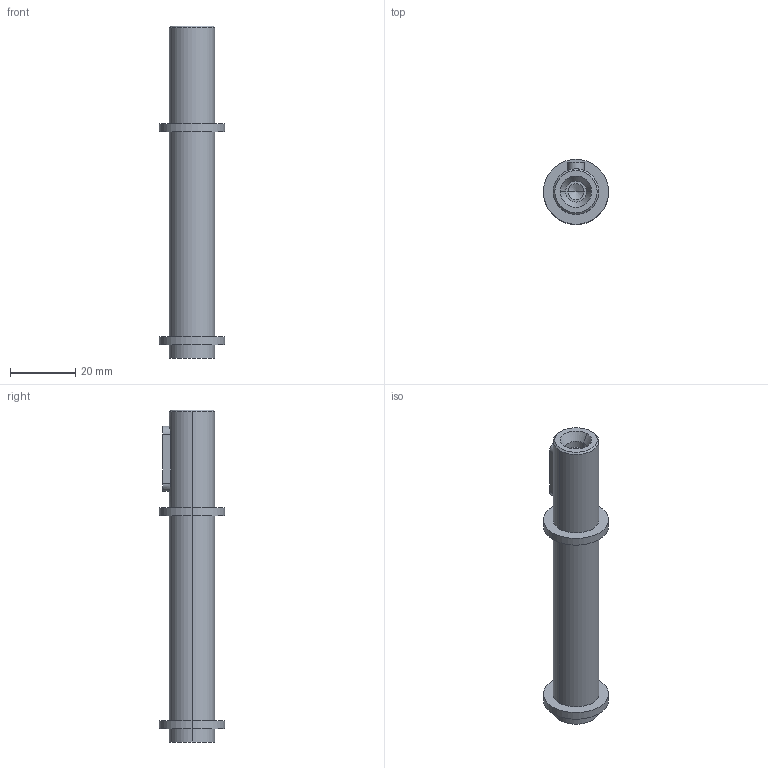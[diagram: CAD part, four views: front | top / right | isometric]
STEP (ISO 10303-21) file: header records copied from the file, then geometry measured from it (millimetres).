
FILE_DESCRIPTION(/* description */ (''),/* implementation_level */ '2;1');
FILE_NAME(/* name */ '3_ALBERO LENTO SEMPLICE NMRV030',/* time_stamp */ '2025-10-09T13:55:44+02:00',/* author */ (''),/* organization */ (''),/* preprocessor_version */ 'ST-DEVELOPER v19.2',/* originating_system */ 'Rhino 8.23',/* authorisation */ '');
FILE_SCHEMA (('CONFIG_CONTROL_DESIGN'));
Length unit declared in the file: millimetre
Products named in the file (2): Document; AL 030-14(1-1)
Bounding box: 20 x 20 x 102 mm (x, y, z)
Volume: 16175.5 mm3; surface area: 5958 mm2
Topology: 1 solids, 1 shells, 32 faces, 66 edges, 41 vertices
Faces by surface type: cylinder 16, plane 10, bspline 6
Entity records: 1108 total; most frequent: CARTESIAN_POINT 303, ORIENTED_EDGE 128, DIRECTION 102, EDGE_CURVE 64, AXIS2_PLACEMENT_3D 64, VERTEX_POINT 41, EDGE_LOOP 39, TRIMMED_CURVE 34
